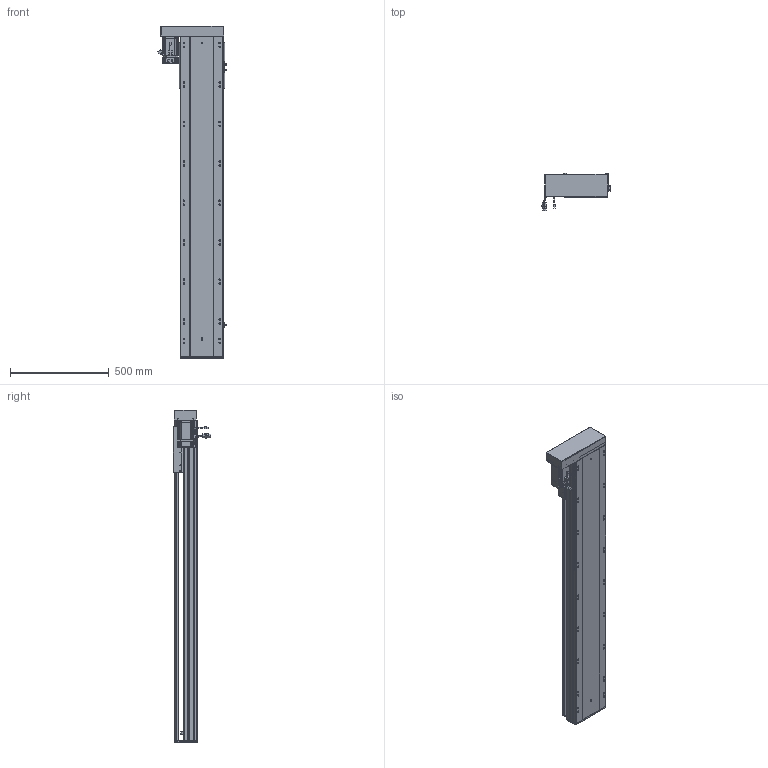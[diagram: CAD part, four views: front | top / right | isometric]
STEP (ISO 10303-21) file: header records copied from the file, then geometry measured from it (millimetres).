
FILE_DESCRIPTION (( 'STEP AP203' ), '1' );
FILE_NAME ('RY220-L2525-300-LK.SLDASM_1300.step', '2022-07-04T01:47:15', ( '' ), ( '' ), 'SwSTEP 2.0', 'SolidWorks 2016', '' );
FILE_SCHEMA (( 'CONFIG_CONTROL_DESIGN' ));
Length unit declared in the file: millimetre
Products named in the file (12): 怢湛750W_ECMA-CX0807ES; RY220綴裔啣; RY220蛌殏菁釱-300_1300; RY220酘衵殏萇儂欶; RY220半封闭25-32螺母铝滑块; 滅袉蝶18-15; RY220-300-蛌殏奻裔啣_1300; RY220-俋离672覜茼んえ; 滅袉蝶18-10; RY220左右折电机安装板; RY220-L2525-300-LK.SLDASM_1300; 覜茼ん672
Assembly tree (15 placements, depth 2):
  RY220-L2525-300-LK.SLDASM_1300
    RY220蛌殏菁釱-300_1300
    RY220-300-蛌殏奻裔啣_1300
    怢湛750W_ECMA-CX0807ES
    滅袉蝶18-10  x2
    RY220-俋离672覜茼んえ
    覜茼ん672  x3
    RY220綴裔啣
    RY220半封闭25-32螺母铝滑块
    滅袉蝶18-15  x2
    RY220左右折电机安装板
    RY220酘衵殏萇儂欶
Bounding box: 347.44 x 189.27 x 1682 mm (x, y, z)
Volume: 13499912.8 mm3; surface area: 4011115.4 mm2
Topology: 16 solids, 16 shells, 2223 faces, 6136 edges, 3869 vertices
Faces by surface type: cylinder 1015, plane 896, cone 242, bspline 44, sphere 16, torus 10
Entity records: 73437 total; most frequent: CARTESIAN_POINT 21267, ORIENTED_EDGE 10816, DIRECTION 10220, EDGE_CURVE 5408, AXIS2_PLACEMENT_3D 3609, VERTEX_POINT 3525, LINE 3002, VECTOR 3002
